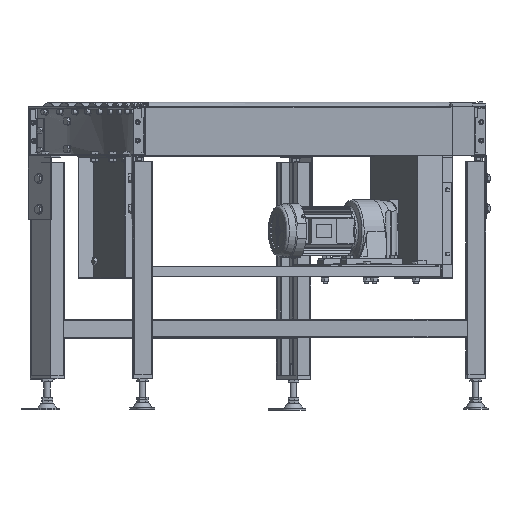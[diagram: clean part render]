
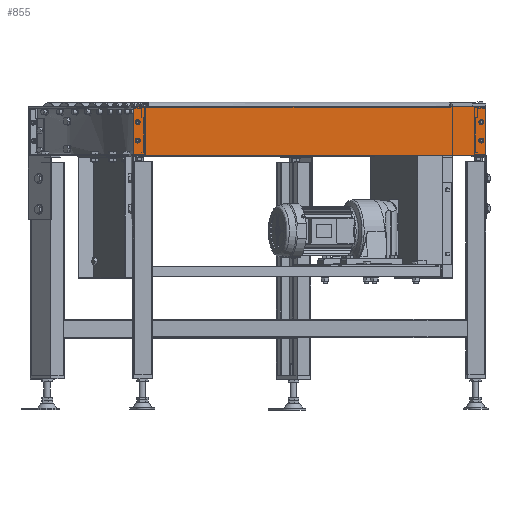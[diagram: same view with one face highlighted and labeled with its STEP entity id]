
A CAD part, top view. The second image highlights one B-rep face of the part: STEP entity #855.
In plain terms, the highlighted planar face has unit normal (0, 0, 1).
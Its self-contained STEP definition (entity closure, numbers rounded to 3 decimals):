
#855=ADVANCED_FACE('',(#3897,#3898,#3899,#3900,#3901),#3896,.T.);
#3896=PLANE('',#30827);
#3897=FACE_OUTER_BOUND('',#30828,.T.);
#3898=FACE_BOUND('',#30829,.T.);
#3899=FACE_BOUND('',#30830,.T.);
#3900=FACE_BOUND('',#30831,.T.);
#3901=FACE_BOUND('',#30832,.T.);
#30824=CARTESIAN_POINT('',(1740.,0.,1.6));
#30825=DIRECTION('',(0.,0.,1.));
#30826=DIRECTION('',(-1.,0.,0.));
#30827=AXIS2_PLACEMENT_3D('',#30824,#30825,#30826);
#30828=EDGE_LOOP('',(#45566,#45567,#45568,#45569));
#30829=EDGE_LOOP('',(#45570,#45571));
#30830=EDGE_LOOP('',(#45572,#45573));
#30831=EDGE_LOOP('',(#45574,#45575));
#30832=EDGE_LOOP('',(#45576,#45577));
#45566=ORIENTED_EDGE('',*,*,#59170,.F.);
#45567=ORIENTED_EDGE('',*,*,#59171,.F.);
#45568=ORIENTED_EDGE('',*,*,#59172,.F.);
#45569=ORIENTED_EDGE('',*,*,#59173,.F.);
#45570=ORIENTED_EDGE('',*,*,#59160,.F.);
#45571=ORIENTED_EDGE('',*,*,#59161,.F.);
#45572=ORIENTED_EDGE('',*,*,#59152,.F.);
#45573=ORIENTED_EDGE('',*,*,#59153,.F.);
#45574=ORIENTED_EDGE('',*,*,#59164,.F.);
#45575=ORIENTED_EDGE('',*,*,#59165,.F.);
#45576=ORIENTED_EDGE('',*,*,#59156,.F.);
#45577=ORIENTED_EDGE('',*,*,#59157,.F.);
#59152=EDGE_CURVE('',#67019,#67026,#67027,.T.);
#59153=EDGE_CURVE('',#67026,#67019,#67033,.T.);
#59156=EDGE_CURVE('',#67046,#67053,#67054,.T.);
#59157=EDGE_CURVE('',#67053,#67046,#67060,.T.);
#59160=EDGE_CURVE('',#67073,#67080,#67081,.T.);
#59161=EDGE_CURVE('',#67080,#67073,#67087,.T.);
#59164=EDGE_CURVE('',#67100,#67107,#67108,.T.);
#59165=EDGE_CURVE('',#67107,#67100,#67114,.T.);
#59170=EDGE_CURVE('',#67148,#67149,#67150,.T.);
#59171=EDGE_CURVE('',#67156,#67148,#67157,.T.);
#59172=EDGE_CURVE('',#67163,#67156,#67164,.T.);
#59173=EDGE_CURVE('',#67149,#67163,#67170,.T.);
#67019=VERTEX_POINT('',#113622);
#67026=VERTEX_POINT('',#113625);
#67027=CIRCLE('',#113629,3.5);
#67033=CIRCLE('',#113633,3.5);
#67046=VERTEX_POINT('',#113639);
#67053=VERTEX_POINT('',#113642);
#67054=CIRCLE('',#113646,3.5);
#67060=CIRCLE('',#113650,3.5);
#67073=VERTEX_POINT('',#113656);
#67080=VERTEX_POINT('',#113659);
#67081=CIRCLE('',#113663,3.5);
#67087=CIRCLE('',#113667,3.5);
#67100=VERTEX_POINT('',#113673);
#67107=VERTEX_POINT('',#113676);
#67108=CIRCLE('',#113680,3.5);
#67114=CIRCLE('',#113684,3.5);
#67148=VERTEX_POINT('',#113701);
#67149=VERTEX_POINT('',#113702);
#67150=LINE('',#113703,#113704);
#67156=VERTEX_POINT('',#113706);
#67157=LINE('',#113707,#113708);
#67163=VERTEX_POINT('',#113710);
#67164=LINE('',#113711,#113712);
#67170=LINE('',#113714,#113715);
#113622=CARTESIAN_POINT('',(1716.2,-48.5,1.6));
#113625=CARTESIAN_POINT('',(1723.2,-48.5,1.6));
#113626=CARTESIAN_POINT('',(1719.7,-48.5,1.6));
#113627=DIRECTION('',(0.,0.,1.));
#113628=DIRECTION('',(1.,0.,0.));
#113629=AXIS2_PLACEMENT_3D('',#113626,#113627,#113628);
#113630=CARTESIAN_POINT('',(1719.7,-48.5,1.6));
#113631=DIRECTION('',(0.,0.,1.));
#113632=DIRECTION('',(1.,0.,0.));
#113633=AXIS2_PLACEMENT_3D('',#113630,#113631,#113632);
#113639=CARTESIAN_POINT('',(876.8,-48.5,1.6));
#113642=CARTESIAN_POINT('',(883.8,-48.5,1.6));
#113643=CARTESIAN_POINT('',(880.3,-48.5,1.6));
#113644=DIRECTION('',(0.,0.,1.));
#113645=DIRECTION('',(1.,0.,0.));
#113646=AXIS2_PLACEMENT_3D('',#113643,#113644,#113645);
#113647=CARTESIAN_POINT('',(880.3,-48.5,1.6));
#113648=DIRECTION('',(0.,0.,1.));
#113649=DIRECTION('',(1.,0.,0.));
#113650=AXIS2_PLACEMENT_3D('',#113647,#113648,#113649);
#113656=CARTESIAN_POINT('',(1716.2,-93.5,1.6));
#113659=CARTESIAN_POINT('',(1723.2,-93.5,1.6));
#113660=CARTESIAN_POINT('',(1719.7,-93.5,1.6));
#113661=DIRECTION('',(0.,0.,1.));
#113662=DIRECTION('',(1.,0.,0.));
#113663=AXIS2_PLACEMENT_3D('',#113660,#113661,#113662);
#113664=CARTESIAN_POINT('',(1719.7,-93.5,1.6));
#113665=DIRECTION('',(0.,0.,1.));
#113666=DIRECTION('',(1.,0.,0.));
#113667=AXIS2_PLACEMENT_3D('',#113664,#113665,#113666);
#113673=CARTESIAN_POINT('',(876.8,-93.5,1.6));
#113676=CARTESIAN_POINT('',(883.8,-93.5,1.6));
#113677=CARTESIAN_POINT('',(880.3,-93.5,1.6));
#113678=DIRECTION('',(0.,0.,1.));
#113679=DIRECTION('',(1.,0.,0.));
#113680=AXIS2_PLACEMENT_3D('',#113677,#113678,#113679);
#113681=CARTESIAN_POINT('',(880.3,-93.5,1.6));
#113682=DIRECTION('',(0.,0.,1.));
#113683=DIRECTION('',(1.,0.,0.));
#113684=AXIS2_PLACEMENT_3D('',#113681,#113682,#113683);
#113701=CARTESIAN_POINT('',(1730.,-130.,1.6));
#113702=CARTESIAN_POINT('',(870.,-130.,1.6));
#113703=CARTESIAN_POINT('',(1730.,-130.,1.6));
#113704=VECTOR('',#113705,860.);
#113705=DIRECTION('',(-1.,0.,0.));
#113706=CARTESIAN_POINT('',(1730.,-10.,1.6));
#113707=CARTESIAN_POINT('',(1730.,-10.,1.6));
#113708=VECTOR('',#113709,120.);
#113709=DIRECTION('',(0.,-1.,0.));
#113710=CARTESIAN_POINT('',(870.,-10.,1.6));
#113711=CARTESIAN_POINT('',(870.,-10.,1.6));
#113712=VECTOR('',#113713,860.);
#113713=DIRECTION('',(1.,0.,0.));
#113714=CARTESIAN_POINT('',(870.,-130.,1.6));
#113715=VECTOR('',#113716,120.);
#113716=DIRECTION('',(0.,1.,0.));
